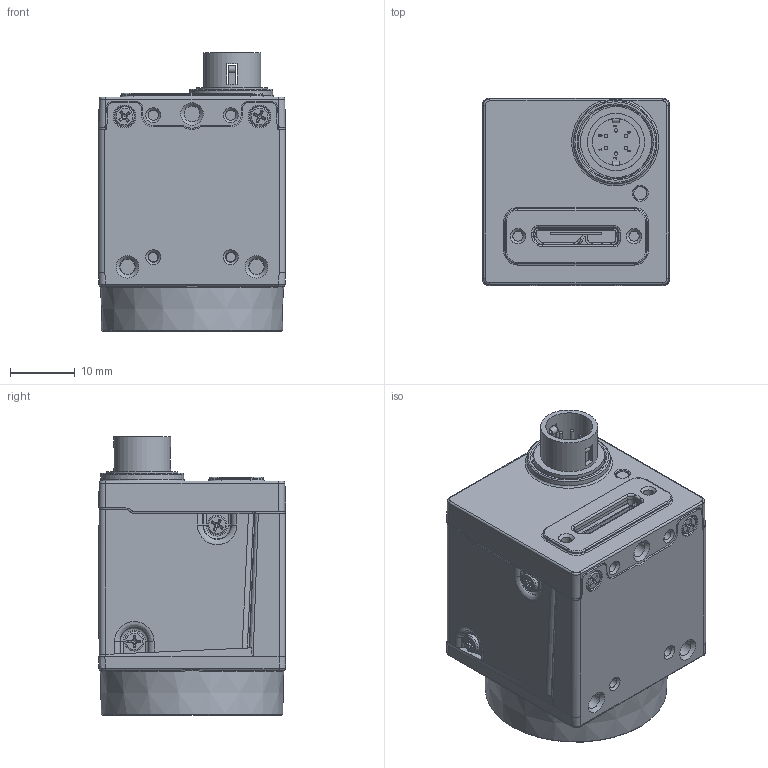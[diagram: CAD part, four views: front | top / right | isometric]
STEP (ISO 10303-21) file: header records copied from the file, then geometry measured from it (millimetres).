
FILE_DESCRIPTION((''),'2;1');
FILE_NAME('C:\cad\PSP2011Client\Work\139705407919IP02035101.stp','2014-04-09T16:35:59',(''),(''),'Autodesk Inventor 2011','Autodesk Inventor 2011','');
FILE_SCHEMA(('AUTOMOTIVE_DESIGN { 1 0 10303 214 1 1 1 1 }'));
Length unit declared in the file: millimetre
Products named in the file (1): 139705407919IP02035101
Bounding box: 29 x 29 x 43.2 mm (x, y, z)
Volume: 24599.4 mm3; surface area: 7445.8 mm2
Topology: 3 solids, 18 shells, 1315 faces, 3776 edges, 2508 vertices
Faces by surface type: plane 831, cylinder 185, cone 120, bspline 95, torus 84
Full cylindrical faces by diameter (mm): 0.55 x6, 1.411 x7, 1.567 x6, 1.6 x3, 1.85 x8, 2.459 x3, 3 x7, 7.25 x1, 8.85 x1, 11 x1, 16 x1, 24.536 x1
Entity records: 46775 total; most frequent: CARTESIAN_POINT 12475, ORIENTED_EDGE 7230, DIRECTION 6078, EDGE_CURVE 3615, VERTEX_POINT 2465, VECTOR 2348, LINE 2348, AXIS2_PLACEMENT_3D 1865
